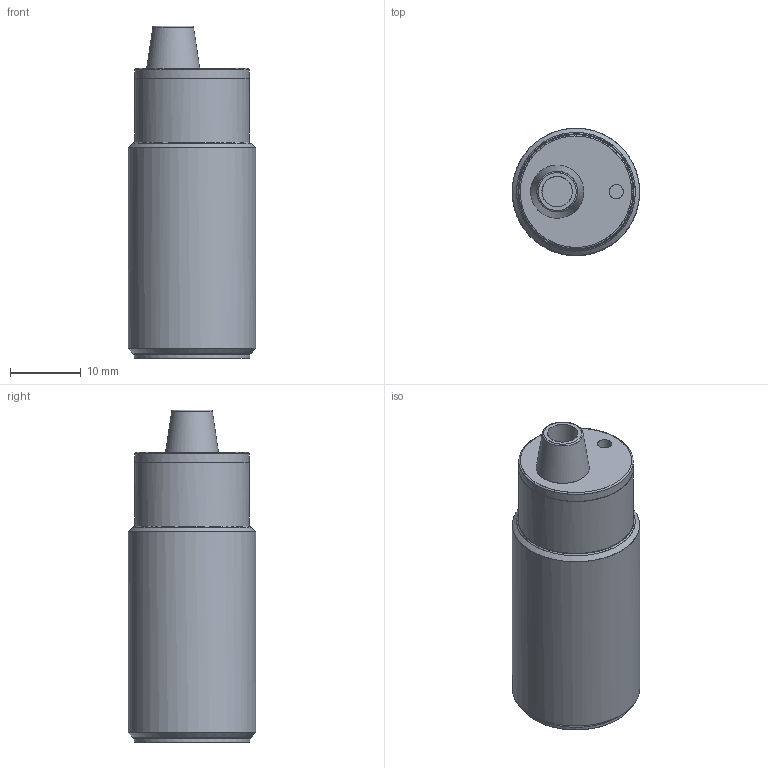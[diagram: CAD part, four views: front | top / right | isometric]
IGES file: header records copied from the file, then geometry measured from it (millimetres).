
Global section: file name: D:\dd\DSD-0324.igs; preprocessor: I-DEAS 3D IGES Translator 13; date: 20100122.124624; units: millimetre
Bounding box: 17.98 x 18 x 46.9 mm (x, y, z)
Surface area: 6040.4 mm2 (no closed solid volume)
Topology: 0 solids, 0 shells, 25 faces, 182 edges, 149 vertices
Faces by surface type: bspline 25
